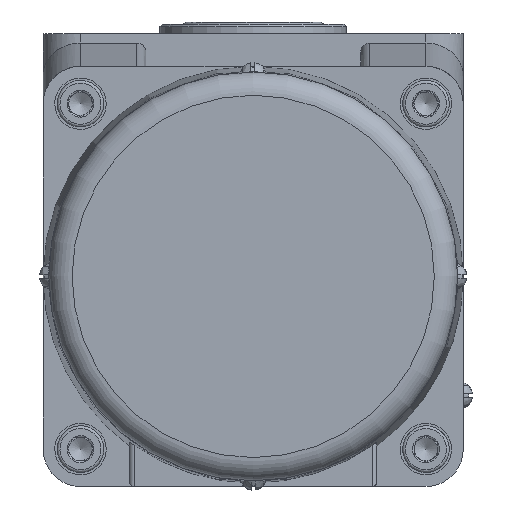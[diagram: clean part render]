
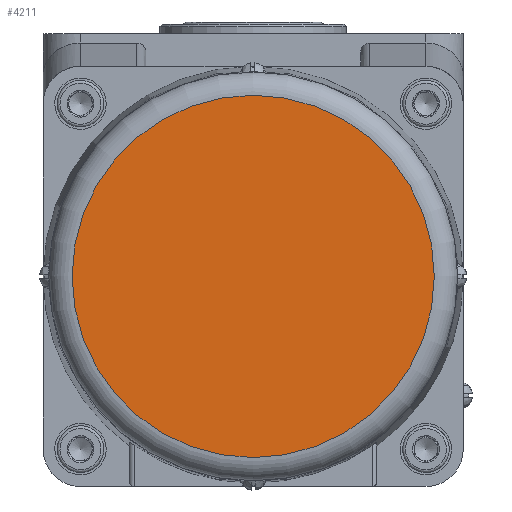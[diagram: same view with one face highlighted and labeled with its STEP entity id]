
A CAD part, front view. The second image highlights one B-rep face of the part: STEP entity #4211.
In plain terms, the highlighted planar face has unit normal (0, -1, 0).
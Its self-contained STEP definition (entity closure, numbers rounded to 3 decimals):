
#634=FACE_OUTER_BOUND('',#5720,.T.);
#4211=ADVANCED_FACE('',(#634),#4576,.F.);
#4576=PLANE('',#12971);
#5720=EDGE_LOOP('',(#8498));
#8498=ORIENTED_EDGE('',*,*,#10921,.T.);
#9525=VERTEX_POINT('',#20548);
#10921=EDGE_CURVE('',#9525,#9525,#11550,.T.);
#11550=CIRCLE('',#12946,38.8);
#12946=AXIS2_PLACEMENT_3D('',#20547,#15980,#15981);
#12971=AXIS2_PLACEMENT_3D('',#20593,#16042,#16043);
#15980=DIRECTION('',(0.,-1.,0.));
#15981=DIRECTION('',(1.,0.,0.));
#16042=DIRECTION('',(0.,1.,0.));
#16043=DIRECTION('',(1.,0.,0.));
#20547=CARTESIAN_POINT('',(0.,-246.5,-52.));
#20548=CARTESIAN_POINT('',(38.8,-246.5,-52.));
#20593=CARTESIAN_POINT('',(0.,-246.5,-95.8));
